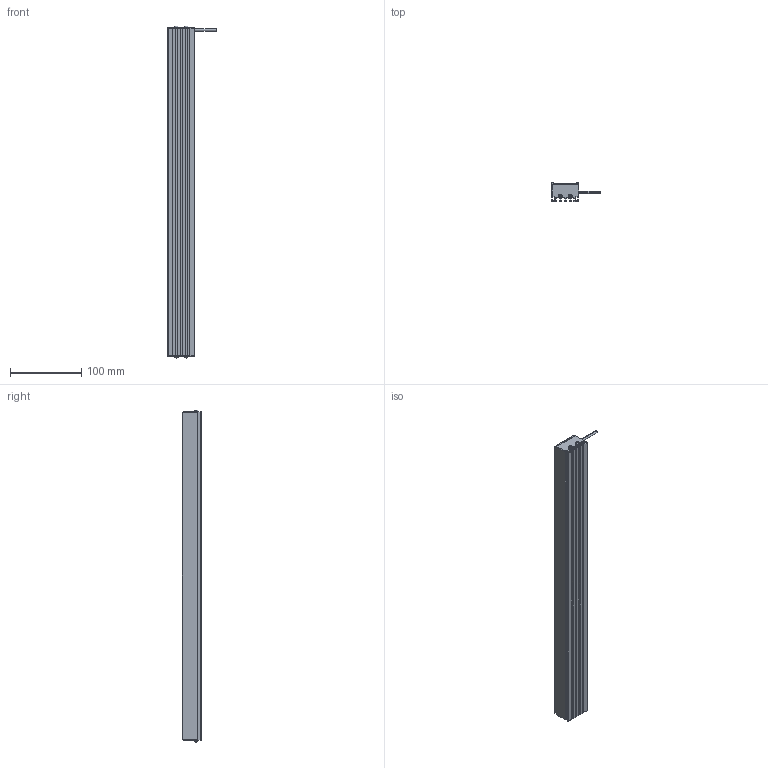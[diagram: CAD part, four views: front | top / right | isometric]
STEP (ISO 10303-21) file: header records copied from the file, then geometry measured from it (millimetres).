
FILE_DESCRIPTION((''),'2;1');
FILE_NAME('MV-LLDS-462-38_ASM','2020-12-30T',('Administrator'),(''),'PRO/ENGINEER BY PARAMETRIC TECHNOLOGY CORPORATION, 2010100','PRO/ENGINEER BY PARAMETRIC TECHNOLOGY CORPORATION, 2010100','');
FILE_SCHEMA(('CONFIG_CONTROL_DESIGN'));
Length unit declared in the file: millimetre
Products named in the file (3): BL-6_3_; M3-5_3; MV-LLDS-462-38_ASM
Assembly tree (5 placements, depth 2):
  MV-LLDS-462-38_ASM
    BL-6_3_
    M3-5_3  x4
Bounding box: 68 x 27 x 466.68 mm (x, y, z)
Volume: 386562.8 mm3; surface area: 111882.1 mm2
Topology: 5 solids, 13 shells, 349 faces, 934 edges, 604 vertices
Faces by surface type: plane 223, cylinder 78, cone 16, bspline 16, torus 8, sphere 8
Entity records: 8203 total; most frequent: CARTESIAN_POINT 1695, ORIENTED_EDGE 1338, DIRECTION 1310, EDGE_CURVE 679, VECTOR 514, LINE 514, VERTEX_POINT 445, AXIS2_PLACEMENT_3D 398
